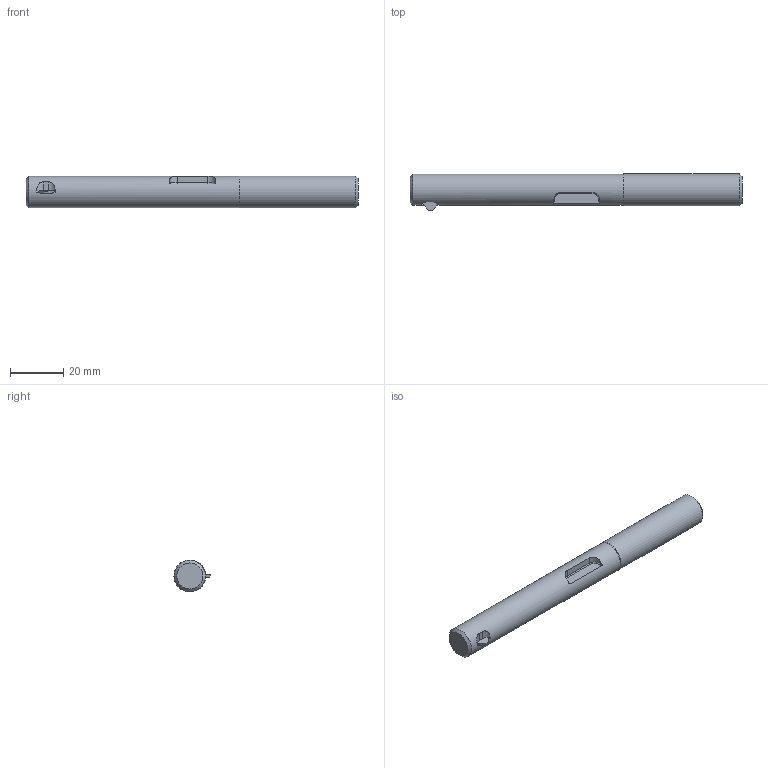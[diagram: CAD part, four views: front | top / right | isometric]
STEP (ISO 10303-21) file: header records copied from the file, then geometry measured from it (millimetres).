
FILE_DESCRIPTION(/* description */ (''),/* implementation_level */ '2;1');
FILE_NAME(/* name */ 'X:\EDF\EDF-OPEN\EDF-865\מודל מעודכן\U burr\קבצי STEP\Ass-Uburr Ø12mm_Simplify_1.stp',/* time_stamp */ '2023-03-05T12:29:39+02:00',/* author */ ('adva'),/* organization */ (''),/* preprocessor_version */ 'ST-DEVELOPER v18.1',/* originating_system */ 'Autodesk Inventor 2022',/* authorisation */ '');
FILE_SCHEMA (('CONFIG_CONTROL_DESIGN'));
Length unit declared in the file: millimetre
Products named in the file (1): Ass-Uburr Ø12mm_Simplify_1
Bounding box: 125 x 13.64 x 12 mm (x, y, z)
Volume: 13669.5 mm3; surface area: 4894.1 mm2
Topology: 1 solids, 1 shells, 32 faces, 77 edges, 49 vertices
Faces by surface type: plane 16, cylinder 10, torus 3, cone 3
Full cylindrical faces by diameter (mm): 11.8 x1, 12 x1
Entity records: 1071 total; most frequent: CARTESIAN_POINT 225, DIRECTION 167, ORIENTED_EDGE 154, EDGE_CURVE 77, AXIS2_PLACEMENT_3D 63, VERTEX_POINT 49, LINE 41, VECTOR 41
